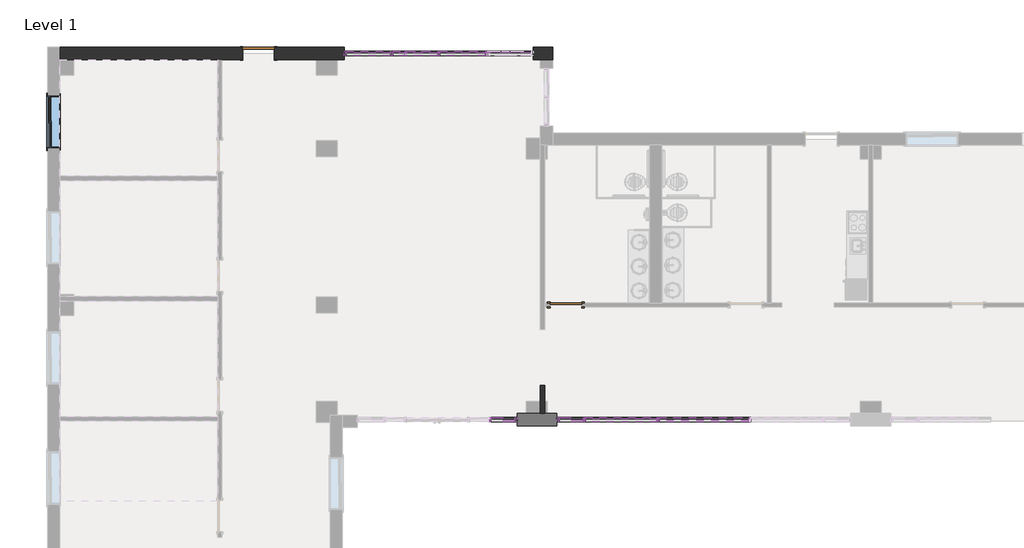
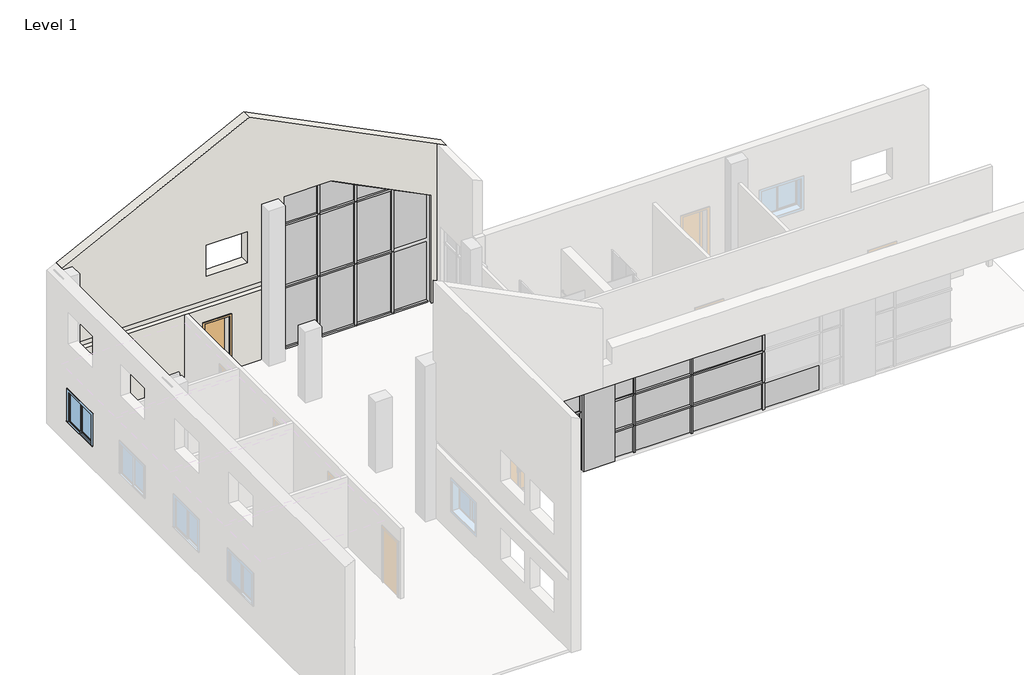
# One storey, part 2 of 4: 56 members, 25 plates, 2 doors, 2 walls, 1 window.
"""IFC4 building model written with IfcOpenShell, lengths in millimetres."""

from ifc_helpers import new_model, si_unit, origin, place, context, project, spatial, faceted_brep, transform, mapped, element, save
from components import door_cc5399a4, door_eb9f8b14, member_f0fea5a5, member_ee409385, member_cba00588, member_d37749d9, member_58fbc06e, member_1988fdfd, member_281dec21, member_8f1c7937, member_c7c5a8a0, member_e69b4e5a, member_4f1c84db, member_a715cb85, member_2b49869a, member_13dc6413, member_3374d9b6, member_830c086e, member_e8e44c72, member_69bae440, member_3c314d05, member_e91c94a8, member_00d5a04f, member_8774740c, member_5247cb20, member_3ca69e07, system_panel_glazed_2c9ef115, system_panel_glazed_f4f1b6a3, system_panel_glazed_8cd64f8d, system_panel_glazed_0babc747, system_panel_glazed_53b4157c, system_panel_glazed_7b5ce646, system_panel_glazed_93fe6fa7, system_panel_glazed_6ce5e085, system_panel_glazed_63f474c4, system_panel_glazed_4b691734, system_panel_glazed_93479f4e, system_panel_glazed_bdd96f24, system_panel_glazed_b60e47ca, system_panel_glazed_57d15483, system_panel_glazed_ef97d2b3, system_panel_solid_6039f36e, system_panel_solid_0ed6c75d, window_8313e728

model = new_model("IFC4")

# Units and contexts
model_context = context("Model", 3, world=origin())
ifc_project = project(units=[si_unit("LENGTHUNIT", "METRE", prefix="MILLI")], contexts=[model_context])

# Site, building, storey
site = spatial("IfcSite", under=ifc_project)
building = spatial("IfcBuilding", under=site)
storey = spatial("IfcBuildingStorey", under=building, Name="Level 1", Elevation=0.0)

# Doors
placement = place(None, origin())
door_shape = door_cc5399a4(model_context)
element("IfcDoor", 1, ObjectType="Single-Flush : 36\" x 84\"", at=placement, inside=storey, context=model_context, shape_type="MappedRepresentation", body=[
    mapped(door_shape, transform((-7821.0766552, 10791.0105424, 0.0), x_axis=(-1.0, 0.0, 0.0), y_axis=(0.0, -1.0, 0.0), z_axis=(0.0, 0.0, 1.0))),
])
door_2_shape = door_eb9f8b14(model_context)
element("IfcDoor", 2, ObjectType="Single-Flush : 36\" x 84\"", at=placement, inside=storey, context=model_context, shape_type="MappedRepresentation", body=[
    mapped(door_2_shape, transform((1075.2733448, 3496.4480424, 0.0), x_axis=(-1.0, 0.0, 0.0), y_axis=(0.0, -1.0, 0.0), z_axis=(0.0, 0.0, 1.0))),
])

# Members
member_shape = member_f0fea5a5(model_context)
element("IfcMember", 3, ObjectType="Rectangular Mullion : 2.5\" x 5\" Rectangular", at=placement, inside=storey, context=model_context, shape_type="MappedRepresentation", body=[
    mapped(member_shape, transform((-3976.1516552, 10791.0105424, 0.0), x_axis=(1.0, 0.0, 0.0), y_axis=(0.0, -1.0, 0.0), z_axis=(0.0, 0.0, -1.0))),
])
element("IfcMember", 4, ObjectType="Rectangular Mullion : 2.5\" x 5\" Rectangular", at=placement, inside=storey, context=model_context, shape_type="MappedRepresentation", body=[
    mapped(member_shape, transform((-2604.5516552, 10791.0105424, 0.0), x_axis=(1.0, 0.0, 0.0), y_axis=(0.0, -1.0, 0.0), z_axis=(0.0, 0.0, -1.0))),
])
element("IfcMember", 5, ObjectType="Rectangular Mullion : 2.5\" x 5\" Rectangular", at=placement, inside=storey, context=model_context, shape_type="MappedRepresentation", body=[
    mapped(member_shape, transform((-1232.9516552, 10791.0105424, 0.0), x_axis=(1.0, 0.0, 0.0), y_axis=(0.0, -1.0, 0.0), z_axis=(0.0, 0.0, -1.0))),
])
member_2_shape = member_ee409385(model_context)
element("IfcMember", 6, ObjectType="Rectangular Mullion : 2.5\" x 5\" Rectangular", at=placement, inside=storey, context=model_context, shape_type="MappedRepresentation", body=[
    mapped(member_2_shape, transform((-5347.7516552, 10791.0105424, 2438.4), x_axis=(-1.0, 0.0, 0.0), y_axis=(0.0, -1.0, 0.0), z_axis=(0.0, 0.0, 1.0))),
])
member_3_shape = member_cba00588(model_context)
element("IfcMember", 7, ObjectType="Rectangular Mullion : 2.5\" x 5\" Rectangular", at=placement, inside=storey, context=model_context, shape_type="MappedRepresentation", body=[
    mapped(member_3_shape, transform((-4007.9016552, 10791.0105424, 6108.0), x_axis=(0.0, 0.0, 1.0), y_axis=(0.0, -1.0, 0.0), z_axis=(1.0, 0.0, 0.0))),
])
element("IfcMember", 8, ObjectType="Rectangular Mullion : 2.5\" x 5\" Rectangular", at=placement, inside=storey, context=model_context, shape_type="MappedRepresentation", body=[
    mapped(member_3_shape, transform((-5284.2516552, 10791.0105424, 0.0), x_axis=(0.0, 0.0, -1.0), y_axis=(0.0, -1.0, 0.0), z_axis=(-1.0, 0.0, 0.0))),
])
element("IfcMember", 9, ObjectType="Rectangular Mullion : 2.5\" x 5\" Rectangular", at=placement, inside=storey, context=model_context, shape_type="MappedRepresentation", body=[
    mapped(member_3_shape, transform((-1201.2016552, 10791.0105424, 0.0), x_axis=(0.0, 0.0, -1.0), y_axis=(0.0, -1.0, 0.0), z_axis=(-1.0, 0.0, 0.0))),
])
member_4_shape = member_d37749d9(model_context)
element("IfcMember", 10, ObjectType="Rectangular Mullion : 2.5\" x 5\" Rectangular", at=placement, inside=storey, context=model_context, shape_type="MappedRepresentation", body=[
    mapped(member_4_shape, transform((-3944.4016552, 10791.0105424, 0.0), x_axis=(0.0, 0.0, -1.0), y_axis=(0.0, -1.0, 0.0), z_axis=(-1.0, 0.0, 0.0))),
])
element("IfcMember", 11, ObjectType="Rectangular Mullion : 2.5\" x 5\" Rectangular", at=placement, inside=storey, context=model_context, shape_type="MappedRepresentation", body=[
    mapped(member_4_shape, transform((-2572.8016552, 10791.0105424, 0.0), x_axis=(0.0, 0.0, -1.0), y_axis=(0.0, -1.0, 0.0), z_axis=(-1.0, 0.0, 0.0))),
])
member_5_shape = member_58fbc06e(model_context)
element("IfcMember", 12, ObjectType="Rectangular Mullion : 2.5\" x 5\" Rectangular", at=placement, inside=storey, context=model_context, shape_type="MappedRepresentation", body=[
    mapped(member_5_shape, transform((-4007.9016552, 10791.0105424, 2438.4), x_axis=(0.0, 0.0, 1.0), y_axis=(0.0, -1.0, 0.0), z_axis=(1.0, 0.0, 0.0))),
])
element("IfcMember", 13, ObjectType="Rectangular Mullion : 2.5\" x 5\" Rectangular", at=placement, inside=storey, context=model_context, shape_type="MappedRepresentation", body=[
    mapped(member_5_shape, transform((-4007.9016552, 10791.0105424, 4876.8), x_axis=(0.0, 0.0, 1.0), y_axis=(0.0, -1.0, 0.0), z_axis=(1.0, 0.0, 0.0))),
])
member_6_shape = member_1988fdfd(model_context)
element("IfcMember", 14, ObjectType="Rectangular Mullion : 2.5\" x 5\" Rectangular", at=placement, inside=storey, context=model_context, shape_type="MappedRepresentation", body=[
    mapped(member_6_shape, transform((-2636.3016552, 10791.0105424, 2438.4), x_axis=(0.0, 0.0, 1.0), y_axis=(0.0, -1.0, 0.0), z_axis=(1.0, 0.0, 0.0))),
])
element("IfcMember", 15, ObjectType="Rectangular Mullion : 2.5\" x 5\" Rectangular", at=placement, inside=storey, context=model_context, shape_type="MappedRepresentation", body=[
    mapped(member_6_shape, transform((-1264.7016552, 10791.0105424, 2438.4), x_axis=(0.0, 0.0, 1.0), y_axis=(0.0, -1.0, 0.0), z_axis=(1.0, 0.0, 0.0))),
])
element("IfcMember", 16, ObjectType="Rectangular Mullion : 2.5\" x 5\" Rectangular", at=placement, inside=storey, context=model_context, shape_type="MappedRepresentation", body=[
    mapped(member_6_shape, transform((-2636.3016552, 10791.0105424, 4876.8), x_axis=(0.0, 0.0, 1.0), y_axis=(0.0, -1.0, 0.0), z_axis=(1.0, 0.0, 0.0))),
])
element("IfcMember", 17, ObjectType="Rectangular Mullion : 2.5\" x 5\" Rectangular", at=placement, inside=storey, context=model_context, shape_type="MappedRepresentation", body=[
    mapped(member_6_shape, transform((-1264.7016552, 10791.0105424, 4876.8), x_axis=(0.0, 0.0, 1.0), y_axis=(0.0, -1.0, 0.0), z_axis=(1.0, 0.0, 0.0))),
])
element("IfcMember", 18, ObjectType="Rectangular Mullion : 2.5\" x 5\" Rectangular", at=placement, inside=storey, context=model_context, shape_type="MappedRepresentation", body=[
    mapped(member_shape, transform((-3976.1516552, 10791.0105424, 2438.4), x_axis=(1.0, 0.0, 0.0), y_axis=(0.0, -1.0, 0.0), z_axis=(0.0, 0.0, -1.0))),
])
element("IfcMember", 19, ObjectType="Rectangular Mullion : 2.5\" x 5\" Rectangular", at=placement, inside=storey, context=model_context, shape_type="MappedRepresentation", body=[
    mapped(member_shape, transform((-2604.5516552, 10791.0105424, 2438.4), x_axis=(1.0, 0.0, 0.0), y_axis=(0.0, -1.0, 0.0), z_axis=(0.0, 0.0, -1.0))),
])
element("IfcMember", 20, ObjectType="Rectangular Mullion : 2.5\" x 5\" Rectangular", at=placement, inside=storey, context=model_context, shape_type="MappedRepresentation", body=[
    mapped(member_shape, transform((-1232.9516552, 10791.0105424, 2438.4), x_axis=(1.0, 0.0, 0.0), y_axis=(0.0, -1.0, 0.0), z_axis=(0.0, 0.0, -1.0))),
])
element("IfcMember", 21, ObjectType="Rectangular Mullion : 2.5\" x 5\" Rectangular", at=placement, inside=storey, context=model_context, shape_type="MappedRepresentation", body=[
    mapped(member_2_shape, transform((-5347.7516552, 10791.0105424, 4876.8), x_axis=(-1.0, 0.0, 0.0), y_axis=(0.0, -1.0, 0.0), z_axis=(0.0, 0.0, 1.0))),
])
member_7_shape = member_281dec21(model_context)
element("IfcMember", 22, ObjectType="Rectangular Mullion : 2.5\" x 5\" Rectangular", at=placement, inside=storey, context=model_context, shape_type="MappedRepresentation", body=[
    mapped(member_7_shape, transform((-3582.3727724, 10791.0105424, 6108.0), x_axis=(0.0, 0.0, 1.0), y_axis=(0.0, -1.0, 0.0), z_axis=(1.0, 0.0, 0.0))),
])
member_8_shape = member_8f1c7937(model_context)
element("IfcMember", 23, ObjectType="Rectangular Mullion : 2.5\" x 5\" Rectangular", at=placement, inside=storey, context=model_context, shape_type="MappedRepresentation", body=[
    mapped(member_8_shape, transform((-2604.5516552, 10791.0105424, 5619.0894414), x_axis=(0.44721359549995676, 0.0, 0.8944271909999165), y_axis=(0.0, -1.0, 0.0), z_axis=(0.8944271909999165, 0.0, -0.44721359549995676))),
])
member_9_shape = member_c7c5a8a0(model_context)
element("IfcMember", 24, ObjectType="Rectangular Mullion : 2.5\" x 5\" Rectangular", at=placement, inside=storey, context=model_context, shape_type="MappedRepresentation", body=[
    mapped(member_9_shape, transform((1580.0983448, 175.3980424, 2286.0), x_axis=(0.0, 0.0, 1.0), y_axis=(0.0, -1.0, 0.0), z_axis=(1.0, 0.0, 0.0))),
])
element("IfcMember", 25, ObjectType="Rectangular Mullion : 2.5\" x 5\" Rectangular", at=placement, inside=storey, context=model_context, shape_type="MappedRepresentation", body=[
    mapped(member_9_shape, transform((-401.1016552, 175.3980424, 2286.0), x_axis=(0.0, 0.0, 1.0), y_axis=(0.0, -1.0, 0.0), z_axis=(1.0, 0.0, 0.0))),
])
element("IfcMember", 26, ObjectType="Rectangular Mullion : 2.5\" x 5\" Rectangular", at=placement, inside=storey, context=model_context, shape_type="MappedRepresentation", body=[
    mapped(member_9_shape, transform((-401.1016552, 175.3980424, 1066.8), x_axis=(0.0, 0.0, 1.0), y_axis=(0.0, -1.0, 0.0), z_axis=(1.0, 0.0, 0.0))),
])
element("IfcMember", 27, ObjectType="Rectangular Mullion : 2.5\" x 5\" Rectangular", at=placement, inside=storey, context=model_context, shape_type="MappedRepresentation", body=[
    mapped(member_9_shape, transform((1580.0983448, 175.3980424, 1066.8), x_axis=(0.0, 0.0, 1.0), y_axis=(0.0, -1.0, 0.0), z_axis=(1.0, 0.0, 0.0))),
])
member_10_shape = member_e69b4e5a(model_context)
element("IfcMember", 28, ObjectType="Rectangular Mullion : 2.5\" x 5\" Rectangular", at=placement, inside=storey, context=model_context, shape_type="MappedRepresentation", body=[
    mapped(member_10_shape, transform((6372.7608448, 175.3980424, 2286.0), x_axis=(0.0, 0.0, 1.0), y_axis=(0.0, -1.0, 0.0), z_axis=(1.0, 0.0, 0.0))),
])
element("IfcMember", 29, ObjectType="Rectangular Mullion : 2.5\" x 5\" Rectangular", at=placement, inside=storey, context=model_context, shape_type="MappedRepresentation", body=[
    mapped(member_10_shape, transform((6372.7608448, 175.3980424, 1066.8), x_axis=(0.0, 0.0, 1.0), y_axis=(0.0, -1.0, 0.0), z_axis=(1.0, 0.0, 0.0))),
])
member_11_shape = member_4f1c84db(model_context)
element("IfcMember", 30, ObjectType="Rectangular Mullion : 2.5\" x 5\" Rectangular", at=placement, inside=storey, context=model_context, shape_type="MappedRepresentation", body=[
    mapped(member_11_shape, transform((3713.6983448, 175.3980424, 2286.0), x_axis=(0.0, 0.0, 1.0), y_axis=(0.0, -1.0, 0.0), z_axis=(1.0, 0.0, 0.0))),
])
element("IfcMember", 31, ObjectType="Rectangular Mullion : 2.5\" x 5\" Rectangular", at=placement, inside=storey, context=model_context, shape_type="MappedRepresentation", body=[
    mapped(member_11_shape, transform((3713.6983448, 175.3980424, 1066.8), x_axis=(0.0, 0.0, 1.0), y_axis=(0.0, -1.0, 0.0), z_axis=(1.0, 0.0, 0.0))),
])
member_12_shape = member_a715cb85(model_context)
element("IfcMember", 32, ObjectType="Rectangular Mullion : 2.5\" x 5\" Rectangular", at=placement, inside=storey, context=model_context, shape_type="MappedRepresentation", body=[
    mapped(member_12_shape, transform((1611.8483448, 175.3980424, 0.0), x_axis=(1.0, 0.0, 0.0), y_axis=(0.0, -1.0, 0.0), z_axis=(0.0, 0.0, -1.0))),
])
element("IfcMember", 33, ObjectType="Rectangular Mullion : 2.5\" x 5\" Rectangular", at=placement, inside=storey, context=model_context, shape_type="MappedRepresentation", body=[
    mapped(member_12_shape, transform((3745.4483448, 175.3980424, 0.0), x_axis=(1.0, 0.0, 0.0), y_axis=(0.0, -1.0, 0.0), z_axis=(0.0, 0.0, -1.0))),
])
element("IfcMember", 34, ObjectType="Rectangular Mullion : 2.5\" x 5\" Rectangular", at=placement, inside=storey, context=model_context, shape_type="MappedRepresentation", body=[
    mapped(member_12_shape, transform((6404.5108448, 175.3980424, 0.0), x_axis=(1.0, 0.0, 0.0), y_axis=(0.0, -1.0, 0.0), z_axis=(0.0, 0.0, -1.0))),
])
element("IfcMember", 35, ObjectType="Rectangular Mullion : 2.5\" x 5\" Rectangular", at=placement, inside=storey, context=model_context, shape_type="MappedRepresentation", body=[
    mapped(member_12_shape, transform((-369.3516552, 175.3980424, 0.0), x_axis=(1.0, 0.0, 0.0), y_axis=(0.0, -1.0, 0.0), z_axis=(0.0, 0.0, -1.0))),
])
element("IfcMember", 36, ObjectType="Rectangular Mullion : 2.5\" x 5\" Rectangular", at=placement, inside=storey, context=model_context, shape_type="MappedRepresentation", body=[
    mapped(member_12_shape, transform((849.8483448, 175.3980424, 0.0), x_axis=(1.0, 0.0, 0.0), y_axis=(0.0, -1.0, 0.0), z_axis=(0.0, 0.0, -1.0))),
])
member_13_shape = member_2b49869a(model_context)
element("IfcMember", 37, ObjectType="Rectangular Mullion : 2.5\" x 5\" Rectangular", at=placement, inside=storey, context=model_context, shape_type="MappedRepresentation", body=[
    mapped(member_13_shape, transform((1611.8483448, 175.3980424, 1066.8), x_axis=(1.0, 0.0, 0.0), y_axis=(0.0, -1.0, 0.0), z_axis=(0.0, 0.0, -1.0))),
])
element("IfcMember", 38, ObjectType="Rectangular Mullion : 2.5\" x 5\" Rectangular", at=placement, inside=storey, context=model_context, shape_type="MappedRepresentation", body=[
    mapped(member_13_shape, transform((3745.4483448, 175.3980424, 1066.8), x_axis=(1.0, 0.0, 0.0), y_axis=(0.0, -1.0, 0.0), z_axis=(0.0, 0.0, -1.0))),
])
element("IfcMember", 39, ObjectType="Rectangular Mullion : 2.5\" x 5\" Rectangular", at=placement, inside=storey, context=model_context, shape_type="MappedRepresentation", body=[
    mapped(member_13_shape, transform((6404.5108448, 175.3980424, 1066.8), x_axis=(1.0, 0.0, 0.0), y_axis=(0.0, -1.0, 0.0), z_axis=(0.0, 0.0, -1.0))),
])
element("IfcMember", 40, ObjectType="Rectangular Mullion : 2.5\" x 5\" Rectangular", at=placement, inside=storey, context=model_context, shape_type="MappedRepresentation", body=[
    mapped(member_13_shape, transform((-369.3516552, 175.3980424, 1066.8), x_axis=(1.0, 0.0, 0.0), y_axis=(0.0, -1.0, 0.0), z_axis=(0.0, 0.0, -1.0))),
])
element("IfcMember", 41, ObjectType="Rectangular Mullion : 2.5\" x 5\" Rectangular", at=placement, inside=storey, context=model_context, shape_type="MappedRepresentation", body=[
    mapped(member_13_shape, transform((849.8483448, 175.3980424, 1066.8), x_axis=(1.0, 0.0, 0.0), y_axis=(0.0, -1.0, 0.0), z_axis=(0.0, 0.0, -1.0))),
])
member_14_shape = member_13dc6413(model_context)
element("IfcMember", 42, ObjectType="Rectangular Mullion : 2.5\" x 5\" Rectangular", at=placement, inside=storey, context=model_context, shape_type="MappedRepresentation", body=[
    mapped(member_14_shape, transform((-337.6016552, 175.3980424, 3060.0), x_axis=(0.0, 0.0, 1.0), y_axis=(0.0, -1.0, 0.0), z_axis=(1.0, 0.0, 0.0))),
])
element("IfcMember", 43, ObjectType="Rectangular Mullion : 2.5\" x 5\" Rectangular", at=placement, inside=storey, context=model_context, shape_type="MappedRepresentation", body=[
    mapped(member_14_shape, transform((1611.8483448, 175.3980424, 3060.0), x_axis=(0.0, 0.0, 1.0), y_axis=(0.0, -1.0, 0.0), z_axis=(1.0, 0.0, 0.0))),
])
member_15_shape = member_3374d9b6(model_context)
element("IfcMember", 44, ObjectType="Rectangular Mullion : 2.5\" x 5\" Rectangular", at=placement, inside=storey, context=model_context, shape_type="MappedRepresentation", body=[
    mapped(member_15_shape, transform((3745.4483448, 175.3980424, 3060.0), x_axis=(0.0, 0.0, 1.0), y_axis=(0.0, -1.0, 0.0), z_axis=(1.0, 0.0, 0.0))),
])
member_16_shape = member_830c086e(model_context)
element("IfcMember", 45, ObjectType="Rectangular Mullion : 2.5\" x 5\" Rectangular", at=placement, inside=storey, context=model_context, shape_type="MappedRepresentation", body=[
    mapped(member_16_shape, transform((6404.5108448, 175.3980424, 3060.0), x_axis=(0.0, 0.0, 1.0), y_axis=(0.0, -1.0, 0.0), z_axis=(1.0, 0.0, 0.0))),
])
element("IfcMember", 46, ObjectType="Rectangular Mullion : 2.5\" x 5\" Rectangular", at=placement, inside=storey, context=model_context, shape_type="MappedRepresentation", body=[
    mapped(member_12_shape, transform((-1740.9516552, 175.3980424, 0.0), x_axis=(1.0, 0.0, 0.0), y_axis=(0.0, -1.0, 0.0), z_axis=(0.0, 0.0, -1.0))),
])
member_17_shape = member_e8e44c72(model_context)
element("IfcMember", 47, ObjectType="Rectangular Mullion : 2.5\" x 5\" Rectangular", at=placement, inside=storey, context=model_context, shape_type="MappedRepresentation", body=[
    mapped(member_17_shape, transform((-3976.1516552, 10791.0105424, 4876.8), x_axis=(1.0, 0.0, 0.0), y_axis=(0.0, -1.0, 0.0), z_axis=(0.0, 0.0, -1.0))),
])
member_18_shape = member_69bae440(model_context)
element("IfcMember", 48, ObjectType="Rectangular Mullion : 2.5\" x 5\" Rectangular", at=placement, inside=storey, context=model_context, shape_type="MappedRepresentation", body=[
    mapped(member_18_shape, transform((-2604.5516552, 10791.0105424, 4876.8), x_axis=(1.0, 0.0, 0.0), y_axis=(0.0, -1.0, 0.0), z_axis=(0.0, 0.0, -1.0))),
])
member_19_shape = member_3c314d05(model_context)
element("IfcMember", 49, ObjectType="Rectangular Mullion : 2.5\" x 5\" Rectangular", at=placement, inside=storey, context=model_context, shape_type="MappedRepresentation", body=[
    mapped(member_19_shape, transform((-1232.9516552, 10791.0105424, 4876.8), x_axis=(1.0, 0.0, 0.0), y_axis=(0.0, -1.0, 0.0), z_axis=(0.0, 0.0, -1.0))),
])
member_20_shape = member_e91c94a8(model_context)
element("IfcMember", 50, ObjectType="Rectangular Mullion : 2.5\" x 5\" Rectangular", at=placement, inside=storey, context=model_context, shape_type="MappedRepresentation", body=[
    mapped(member_20_shape, transform((-1119.9727724, 10791.0105424, 4876.8), x_axis=(0.0, 0.0, 1.0), y_axis=(0.0, -1.0, 0.0), z_axis=(1.0, 0.0, 0.0))),
])
member_21_shape = member_00d5a04f(model_context)
element("IfcMember", 51, ObjectType="Rectangular Mullion : 2.5\" x 5\" Rectangular", at=placement, inside=storey, context=model_context, shape_type="MappedRepresentation", body=[
    mapped(member_21_shape, transform((-1232.9516552, 10791.0105424, 4933.2894414), x_axis=(0.44721359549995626, 0.0, 0.8944271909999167), y_axis=(0.0, -1.0, 0.0), z_axis=(0.8944271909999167, 0.0, -0.44721359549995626))),
])
member_22_shape = member_8774740c(model_context)
element("IfcMember", 52, ObjectType="Rectangular Mullion : 2.5\" x 5\" Rectangular", at=placement, inside=storey, context=model_context, shape_type="MappedRepresentation", body=[
    mapped(member_22_shape, transform((-1119.9727724, 10791.0105424, 4876.8), x_axis=(0.44721359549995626, 0.0, 0.8944271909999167), y_axis=(0.0, -1.0, 0.0), z_axis=(0.8944271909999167, 0.0, -0.44721359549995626))),
])
member_23_shape = member_5247cb20(model_context)
element("IfcMember", 53, ObjectType="Rectangular Mullion : 2.5\" x 5\" Rectangular", at=placement, inside=storey, context=model_context, shape_type="MappedRepresentation", body=[
    mapped(member_23_shape, transform((-5347.7516552, 10791.0105424, 6108.0), x_axis=(-1.0, 0.0, 0.0), y_axis=(0.0, -1.0, 0.0), z_axis=(0.0, 0.0, 1.0))),
])
member_24_shape = member_3ca69e07(model_context)
element("IfcMember", 54, ObjectType="Rectangular Mullion : 2.5\" x 5\" Rectangular", at=placement, inside=storey, context=model_context, shape_type="MappedRepresentation", body=[
    mapped(member_24_shape, transform((1611.8483448, 175.3980424, 2286.0), x_axis=(1.0, 0.0, 0.0), y_axis=(0.0, -1.0, 0.0), z_axis=(0.0, 0.0, -1.0))),
])
element("IfcMember", 55, ObjectType="Rectangular Mullion : 2.5\" x 5\" Rectangular", at=placement, inside=storey, context=model_context, shape_type="MappedRepresentation", body=[
    mapped(member_24_shape, transform((3745.4483448, 175.3980424, 2286.0), x_axis=(1.0, 0.0, 0.0), y_axis=(0.0, -1.0, 0.0), z_axis=(0.0, 0.0, -1.0))),
])
element("IfcMember", 56, ObjectType="Rectangular Mullion : 2.5\" x 5\" Rectangular", at=placement, inside=storey, context=model_context, shape_type="MappedRepresentation", body=[
    mapped(member_24_shape, transform((6404.5108448, 175.3980424, 2286.0), x_axis=(1.0, 0.0, 0.0), y_axis=(0.0, -1.0, 0.0), z_axis=(0.0, 0.0, -1.0))),
])
element("IfcMember", 57, ObjectType="Rectangular Mullion : 2.5\" x 5\" Rectangular", at=placement, inside=storey, context=model_context, shape_type="MappedRepresentation", body=[
    mapped(member_24_shape, transform((-369.3516552, 175.3980424, 2286.0), x_axis=(1.0, 0.0, 0.0), y_axis=(0.0, -1.0, 0.0), z_axis=(0.0, 0.0, -1.0))),
])
element("IfcMember", 58, ObjectType="Rectangular Mullion : 2.5\" x 5\" Rectangular", at=placement, inside=storey, context=model_context, shape_type="MappedRepresentation", body=[
    mapped(member_24_shape, transform((849.8483448, 175.3980424, 2286.0), x_axis=(1.0, 0.0, 0.0), y_axis=(0.0, -1.0, 0.0), z_axis=(0.0, 0.0, -1.0))),
])

# Plates
element("IfcPlate", 59, ObjectType="Exterior - Brick on Mtl. Stud", at=placement, inside=storey, context=model_context, shape_type="Brep", body=[
    faceted_brep([(-337.6016552, -0.8144576, 0.0), (818.0983448, -0.8144576, 0.0), (818.0983448, -0.8144576, 3060.0), (-337.6016552, -0.8144576, 3060.0), (-337.6016552, 351.6105424, 0.0), (-337.6016552, 351.6105424, 3060.0), (-64.5516552, 351.6105424, 3060.0), (341.8483448, 351.6105424, 3060.0), (465.6733448, 351.6105424, 3060.0), (545.0483448, 351.6105424, 3060.0), (818.0983448, 351.6105424, 3060.0), (818.0983448, 351.6105424, 0.0), (545.0483448, 351.6105424, 0.0), (465.6733448, 351.6105424, 0.0), (341.8483448, 351.6105424, 0.0), (-64.5516552, 351.6105424, 0.0)], [[[0, 1, 2, 3]], [[4, 5, 6, 7, 8, 9, 10, 11, 12, 13, 14, 15]], [[1, 0, 4, 15, 14, 13, 12, 11]], [[2, 1, 11, 10]], [[3, 2, 10, 9, 8, 7, 6, 5]], [[0, 3, 5, 4]]]),
])
system_panel_glazed_shape = system_panel_glazed_2c9ef115(model_context)
element("IfcPlate", 60, ObjectType="System Panel : Glazed", at=placement, inside=storey, context=model_context, shape_type="MappedRepresentation", body=[
    mapped(system_panel_glazed_shape, transform((-4646.0766552, 10791.0105424, 63.5), x_axis=(1.0, 0.0, 0.0), y_axis=(0.0, 1.0, 0.0), z_axis=(0.0, 0.0, 1.0))),
])
element("IfcPlate", 61, ObjectType="System Panel : Glazed", at=placement, inside=storey, context=model_context, shape_type="MappedRepresentation", body=[
    mapped(system_panel_glazed_shape, transform((-563.0266552, 10791.0105424, 63.5), x_axis=(1.0, 0.0, 0.0), y_axis=(0.0, 1.0, 0.0), z_axis=(0.0, 0.0, 1.0))),
])
system_panel_glazed_2_shape = system_panel_glazed_f4f1b6a3(model_context)
element("IfcPlate", 62, ObjectType="System Panel : Glazed", at=placement, inside=storey, context=model_context, shape_type="MappedRepresentation", body=[
    mapped(system_panel_glazed_2_shape, transform((-3290.3516552, 10791.0105424, 63.5), x_axis=(1.0, 0.0, 0.0), y_axis=(0.0, 1.0, 0.0), z_axis=(0.0, 0.0, 1.0))),
])
element("IfcPlate", 63, ObjectType="System Panel : Glazed", at=placement, inside=storey, context=model_context, shape_type="MappedRepresentation", body=[
    mapped(system_panel_glazed_2_shape, transform((-1918.7516552, 10791.0105424, 63.5), x_axis=(1.0, 0.0, 0.0), y_axis=(0.0, 1.0, 0.0), z_axis=(0.0, 0.0, 1.0))),
])
system_panel_glazed_3_shape = system_panel_glazed_8cd64f8d(model_context)
element("IfcPlate", 64, ObjectType="System Panel : Glazed", at=placement, inside=storey, context=model_context, shape_type="MappedRepresentation", body=[
    mapped(system_panel_glazed_3_shape, transform((-4646.0766552, 10791.0105424, 2470.15), x_axis=(1.0, 0.0, 0.0), y_axis=(0.0, 1.0, 0.0), z_axis=(0.0, 0.0, 1.0))),
])
system_panel_glazed_4_shape = system_panel_glazed_0babc747(model_context)
element("IfcPlate", 65, ObjectType="System Panel : Glazed", at=placement, inside=storey, context=model_context, shape_type="MappedRepresentation", body=[
    mapped(system_panel_glazed_4_shape, transform((-3290.3516552, 10791.0105424, 2470.15), x_axis=(1.0, 0.0, 0.0), y_axis=(0.0, 1.0, 0.0), z_axis=(0.0, 0.0, 1.0))),
])
element("IfcPlate", 66, ObjectType="System Panel : Glazed", at=placement, inside=storey, context=model_context, shape_type="MappedRepresentation", body=[
    mapped(system_panel_glazed_4_shape, transform((-1918.7516552, 10791.0105424, 2470.15), x_axis=(1.0, 0.0, 0.0), y_axis=(0.0, 1.0, 0.0), z_axis=(0.0, 0.0, 1.0))),
])
system_panel_glazed_5_shape = system_panel_glazed_53b4157c(model_context)
element("IfcPlate", 67, ObjectType="System Panel : Glazed", at=placement, inside=storey, context=model_context, shape_type="MappedRepresentation", body=[
    mapped(system_panel_glazed_5_shape, transform((1230.8483448, 175.3980424, 0.0), x_axis=(1.0, 0.0, 0.0), y_axis=(0.0, 1.0, 0.0), z_axis=(0.0, 0.0, 1.0))),
])
element("IfcPlate", 68, ObjectType="System Panel : Glazed", at=placement, inside=storey, context=model_context, shape_type="MappedRepresentation", body=[
    mapped(system_panel_glazed_5_shape, transform((-750.3516552, 175.3980424, 0.0), x_axis=(1.0, 0.0, 0.0), y_axis=(0.0, 1.0, 0.0), z_axis=(0.0, 0.0, 1.0))),
])
system_panel_glazed_6_shape = system_panel_glazed_7b5ce646(model_context)
element("IfcPlate", 69, ObjectType="System Panel : Glazed", at=placement, inside=storey, context=model_context, shape_type="MappedRepresentation", body=[
    mapped(system_panel_glazed_6_shape, transform((-750.3516552, 175.3980424, 1098.55), x_axis=(1.0, 0.0, 0.0), y_axis=(0.0, 1.0, 0.0), z_axis=(0.0, 0.0, 1.0))),
])
element("IfcPlate", 70, ObjectType="System Panel : Glazed", at=placement, inside=storey, context=model_context, shape_type="MappedRepresentation", body=[
    mapped(system_panel_glazed_6_shape, transform((1230.8483448, 175.3980424, 1098.55), x_axis=(1.0, 0.0, 0.0), y_axis=(0.0, 1.0, 0.0), z_axis=(0.0, 0.0, 1.0))),
])
system_panel_glazed_7_shape = system_panel_glazed_93fe6fa7(model_context)
element("IfcPlate", 71, ObjectType="System Panel : Glazed", at=placement, inside=storey, context=model_context, shape_type="MappedRepresentation", body=[
    mapped(system_panel_glazed_7_shape, transform((2678.6483448, 175.3980424, 0.0), x_axis=(1.0, 0.0, 0.0), y_axis=(0.0, 1.0, 0.0), z_axis=(0.0, 0.0, 1.0))),
])
element("IfcPlate", 72, ObjectType="System Panel : Glazed", at=placement, inside=storey, context=model_context, shape_type="MappedRepresentation", body=[
    mapped(system_panel_glazed_7_shape, transform((7471.3108448, 175.3980424, 0.0), x_axis=(1.0, 0.0, 0.0), y_axis=(0.0, 1.0, 0.0), z_axis=(0.0, 0.0, 1.0))),
])
system_panel_glazed_8_shape = system_panel_glazed_6ce5e085(model_context)
element("IfcPlate", 73, ObjectType="System Panel : Glazed", at=placement, inside=storey, context=model_context, shape_type="MappedRepresentation", body=[
    mapped(system_panel_glazed_8_shape, transform((2678.6483448, 175.3980424, 1098.55), x_axis=(1.0, 0.0, 0.0), y_axis=(0.0, 1.0, 0.0), z_axis=(0.0, 0.0, 1.0))),
])
system_panel_glazed_9_shape = system_panel_glazed_63f474c4(model_context)
element("IfcPlate", 74, ObjectType="System Panel : Glazed", at=placement, inside=storey, context=model_context, shape_type="MappedRepresentation", body=[
    mapped(system_panel_glazed_9_shape, transform((5074.9795948, 175.3980424, 0.0), x_axis=(1.0, 0.0, 0.0), y_axis=(0.0, 1.0, 0.0), z_axis=(0.0, 0.0, 1.0))),
])
system_panel_glazed_10_shape = system_panel_glazed_4b691734(model_context)
element("IfcPlate", 75, ObjectType="System Panel : Glazed", at=placement, inside=storey, context=model_context, shape_type="MappedRepresentation", body=[
    mapped(system_panel_glazed_10_shape, transform((5074.9795948, 175.3980424, 1098.55), x_axis=(1.0, 0.0, 0.0), y_axis=(0.0, 1.0, 0.0), z_axis=(0.0, 0.0, 1.0))),
])
system_panel_glazed_11_shape = system_panel_glazed_93479f4e(model_context)
element("IfcPlate", 76, ObjectType="System Panel : Glazed", at=placement, inside=storey, context=model_context, shape_type="MappedRepresentation", body=[
    mapped(system_panel_glazed_11_shape, transform((-563.0266552, 10791.0105424, 2470.15), x_axis=(1.0, 0.0, 0.0), y_axis=(0.0, 1.0, 0.0), z_axis=(0.0, 0.0, 1.0))),
])
system_panel_glazed_12_shape = system_panel_glazed_bdd96f24(model_context)
element("IfcPlate", 77, ObjectType="System Panel : Glazed", at=placement, inside=storey, context=model_context, shape_type="MappedRepresentation", body=[
    mapped(system_panel_glazed_12_shape, transform((-4646.0766552, 10791.0105424, 4908.55), x_axis=(1.0, 0.0, 0.0), y_axis=(0.0, 1.0, 0.0), z_axis=(0.0, 0.0, 1.0))),
])
system_panel_glazed_13_shape = system_panel_glazed_b60e47ca(model_context)
element("IfcPlate", 78, ObjectType="System Panel : Glazed", at=placement, inside=storey, context=model_context, shape_type="MappedRepresentation", body=[
    mapped(system_panel_glazed_13_shape, transform((-3290.3516552, 10791.0105424, 4908.55), x_axis=(1.0, 0.0, 0.0), y_axis=(0.0, 1.0, 0.0), z_axis=(0.0, 0.0, 1.0))),
])
system_panel_glazed_14_shape = system_panel_glazed_57d15483(model_context)
element("IfcPlate", 79, ObjectType="System Panel : Glazed", at=placement, inside=storey, context=model_context, shape_type="MappedRepresentation", body=[
    mapped(system_panel_glazed_14_shape, transform((-1949.1323721, 10791.0105424, 4908.55), x_axis=(1.0, 0.0, 0.0), y_axis=(0.0, 1.0, 0.0), z_axis=(0.0, 0.0, 1.0))),
])
system_panel_glazed_15_shape = system_panel_glazed_ef97d2b3(model_context)
element("IfcPlate", 80, ObjectType="System Panel : Glazed", at=placement, inside=storey, context=model_context, shape_type="MappedRepresentation", body=[
    mapped(system_panel_glazed_15_shape, transform((2678.6483448, 175.3980424, 2317.75), x_axis=(1.0, 0.0, 0.0), y_axis=(0.0, 1.0, 0.0), z_axis=(0.0, 0.0, 1.0))),
])
system_panel_solid_shape = system_panel_solid_6039f36e(model_context)
element("IfcPlate", 81, ObjectType="System Panel : Solid", at=placement, inside=storey, context=model_context, shape_type="MappedRepresentation", body=[
    mapped(system_panel_solid_shape, transform((-750.3516552, 175.3980424, 2317.75), x_axis=(1.0, 0.0, 0.0), y_axis=(0.0, 1.0, 0.0), z_axis=(0.0, 0.0, 1.0))),
])
element("IfcPlate", 82, ObjectType="System Panel : Solid", at=placement, inside=storey, context=model_context, shape_type="MappedRepresentation", body=[
    mapped(system_panel_solid_shape, transform((1230.8483448, 175.3980424, 2317.75), x_axis=(1.0, 0.0, 0.0), y_axis=(0.0, 1.0, 0.0), z_axis=(0.0, 0.0, 1.0))),
])
system_panel_solid_2_shape = system_panel_solid_0ed6c75d(model_context)
element("IfcPlate", 83, ObjectType="System Panel : Solid", at=placement, inside=storey, context=model_context, shape_type="MappedRepresentation", body=[
    mapped(system_panel_solid_2_shape, transform((5074.9795948, 175.3980424, 2317.75), x_axis=(1.0, 0.0, 0.0), y_axis=(0.0, 1.0, 0.0), z_axis=(0.0, 0.0, 1.0))),
])

# Walls
element("IfcWall", 84, ObjectType="Exterior - Brick on Mtl. Stud", at=placement, inside=storey, context=model_context, shape_type="Brep", body=[
    faceted_brep([(-8278.2766552, 10614.7980424, 0.0), (-8278.2766552, 10614.7980424, 2133.6), (-7363.8766552, 10614.7980424, 2133.6), (-7363.8766552, 10614.7980424, 0.0), (-6160.5516552, 10614.7980424, 0.0), (-5550.9516552, 10614.7980424, 0.0), (-5347.7516552, 10614.7980424, 0.0), (-5347.7516552, 10614.7980424, 2755.2), (-8887.8766552, 10614.7980424, 2755.2), (-9011.7016552, 10614.7980424, 2755.2), (-13583.7016552, 10614.7980424, 2755.2), (-13583.7016552, 10614.7980424, 0.0), (-13177.3016552, 10614.7980424, 0.0), (-9011.7016552, 10614.7980424, 0.0), (-8887.8766552, 10614.7980424, 0.0), (694.2733448, 10614.7980424, 6006.3375), (341.8483448, 10614.7980424, 6182.55), (-6620.9266552, 10614.7980424, 9663.9375), (-13583.7016552, 10614.7980424, 6182.55), (-13583.7016552, 10614.7980424, 6100.0), (-13583.7016552, 10614.7980424, 3060.0), (-9011.7016552, 10614.7980424, 3060.0), (-8887.8766552, 10614.7980424, 3060.0), (-5347.7516552, 10614.7980424, 3060.0), (-5347.7516552, 10614.7980424, 6108.0), (-3582.3727724, 10614.7980424, 6108.0), (138.6483448, 10614.7980424, 4247.4894414), (138.6483448, 10614.7980424, 0.0), (341.8483448, 10614.7980424, 0.0), (694.2733448, 10614.7980424, 0.0), (-6684.4266552, 10614.7980424, 5193.6), (-6684.4266552, 10614.7980424, 3974.4), (-8208.4266552, 10614.7980424, 3974.4), (-8208.4266552, 10614.7980424, 5193.6), (-8278.2766552, 10967.2230424, 2133.6), (-8278.2766552, 10967.2230424, 0.0), (-13583.7016552, 10967.2230424, 0.0), (-13583.7016552, 10967.2230424, 6182.55), (-6620.9266552, 10967.2230424, 9663.9375), (694.2733448, 10967.2230424, 6006.3375), (694.2733448, 10967.2230424, 0.0), (138.6483448, 10967.2230424, 0.0), (138.6483448, 10967.2230424, 4247.4894414), (-3582.3727724, 10967.2230424, 6108.0), (-5347.7516552, 10967.2230424, 6108.0), (-5347.7516552, 10967.2230424, 0.0), (-7363.8766552, 10967.2230424, 0.0), (-7363.8766552, 10967.2230424, 2133.6), (-6684.4266552, 10967.2230424, 3974.4), (-6684.4266552, 10967.2230424, 5193.6), (-8208.4266552, 10967.2230424, 5193.6), (-8208.4266552, 10967.2230424, 3974.4), (-5347.7516552, 10779.8980424, 2755.2), (-13583.7016552, 10779.8980424, 2755.2), (-13583.7016552, 10779.8980424, 3060.0), (-5347.7516552, 10779.8980424, 3060.0)], [[[0, 1, 2, 3, 4, 5, 6, 7, 8, 9, 10, 11, 12, 13, 14]], [[15, 16, 17, 18, 19, 20, 21, 22, 23, 24, 25, 26, 27, 28, 29], [30, 31, 32, 33]], [[34, 35, 36, 37, 38, 39, 40, 41, 42, 43, 44, 45, 46, 47], [48, 49, 50, 51]], [[35, 0, 14, 13, 12, 11, 36]], [[3, 46, 45, 6, 5, 4]], [[40, 29, 28, 27, 41]], [[1, 0, 35, 34]], [[2, 1, 34, 47]], [[3, 2, 47, 46]], [[31, 30, 49, 48]], [[32, 31, 48, 51]], [[33, 32, 51, 50]], [[30, 33, 50, 49]], [[18, 17, 38, 37]], [[17, 16, 15, 39, 38]], [[52, 53, 10, 9, 8, 7]], [[54, 55, 23, 22, 21, 20]], [[53, 52, 55, 54]], [[15, 29, 40, 39]], [[18, 37, 36, 11, 10, 53, 54, 20, 19]], [[44, 24, 23, 55, 52, 7, 6, 45]], [[24, 44, 43, 25]], [[25, 43, 42, 26]], [[26, 42, 41, 27]]]),
])
element("IfcWall", 85, ObjectType="Interior - 4 7/8\" Partition (1-hr)", at=placement, inside=storey, context=model_context, shape_type="Brep", body=[
    faceted_brep([(341.8483448, 1165.9980424, 0.0), (341.8483448, 707.2105424, 0.0), (341.8483448, 351.6105424, 0.0), (341.8483448, 351.6105424, 3060.0), (341.8483448, 707.2105424, 3060.0), (341.8483448, 1165.9980424, 3060.0), (465.6733448, 1165.9980424, 0.0), (465.6733448, 1165.9980424, 3060.0), (465.6733448, 707.2105424, 3060.0), (465.6733448, 351.6105424, 3060.0), (465.6733448, 351.6105424, 0.0), (465.6733448, 707.2105424, 0.0)], [[[0, 1, 2, 3, 4, 5]], [[6, 7, 8, 9, 10, 11]], [[2, 1, 0, 6, 11, 10]], [[5, 4, 3, 9, 8, 7]], [[0, 5, 7, 6]], [[3, 2, 10, 9]]]),
])

# Window
window_shape = window_8313e728(model_context)
element("IfcWindow", 86, ObjectType="Slider with Trim : 60\" x 48\"", at=placement, inside=storey, context=model_context, shape_type="MappedRepresentation", body=[
    mapped(window_shape, transform((-13759.9141552, 8805.0480424, 0.0), x_axis=(0.0, 1.0, 0.0), y_axis=(-1.0, 0.0, 0.0), z_axis=(0.0, 0.0, 1.0))),
])

save(model, "model.ifc")
